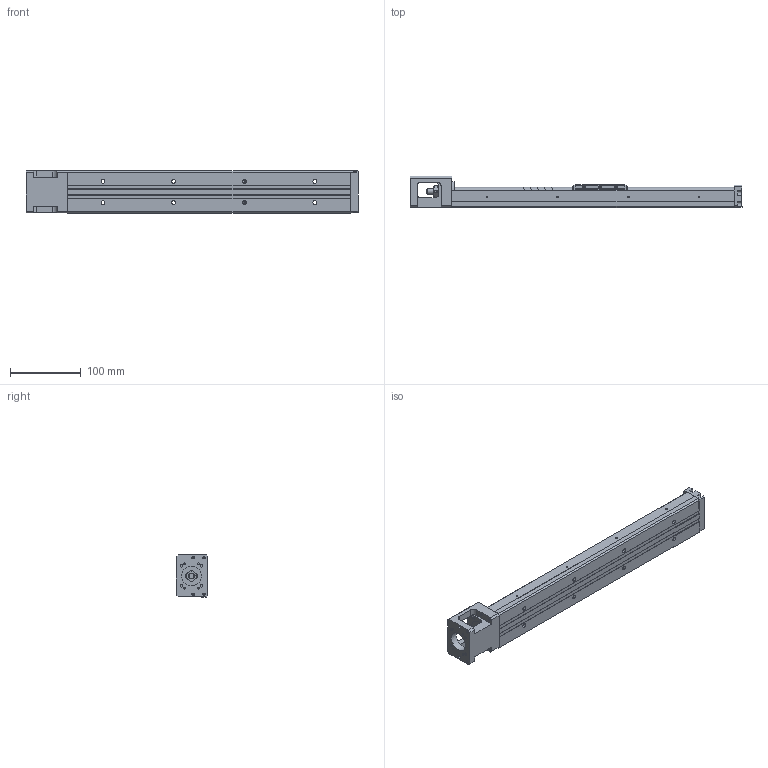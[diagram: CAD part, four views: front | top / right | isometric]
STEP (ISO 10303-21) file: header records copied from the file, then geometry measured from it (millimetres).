
FILE_DESCRIPTION(/* description */ (''),/* implementation_level */ '2;1');
FILE_NAME(/* name */ 'KP33N-400C02-D.stp',/* time_stamp */ '2020-07-01T11:43:04+08:00',/* author */ (''),/* organization */ (''),/* preprocessor_version */ 'ST-DEVELOPER v14',/* originating_system */ 'SIEMENS PLM Software NX 8.0',/* authorisation */ '');
FILE_SCHEMA (('AUTOMOTIVE_DESIGN { 1 0 10303 214 3 1 1 1 }'));
Length unit declared in the file: millimetre
Products named in the file (1): model1
Bounding box: 470 x 44.45 x 60 mm (x, y, z)
Volume: 519419.7 mm3; surface area: 145994.7 mm2
Topology: 5 solids, 14 shells, 646 faces, 1642 edges, 1082 vertices
Faces by surface type: plane 378, cylinder 185, bspline 31, cone 22, extrusion 21, torus 7, sphere 2
Full cylindrical faces by diameter (mm): 1.6 x4, 1.65 x4, 2.15 x4, 2.42 x4, 2.45 x2, 2.5 x12, 3 x3, 3.2 x4, 3.3 x4, 3.4 x3, 3.5 x10, 3.969 x1, 4 x6, 4.001 x1, 4.135 x4, 5.5 x8, 6 x4, 7.6 x1, 8 x5, 9.5 x8, 10.72 x3, 11.8 x2, 12 x6, 12.8 x1, 13 x2, 14 x1, 16 x4, 21.5 x1, 28 x1
Entity records: 29970 total; most frequent: CARTESIAN_POINT 15235, DIRECTION 2953, ORIENTED_EDGE 2856, EDGE_CURVE 1428, AXIS2_PLACEMENT_3D 1048, VERTEX_POINT 1010, EDGE_LOOP 910, VECTOR 857
